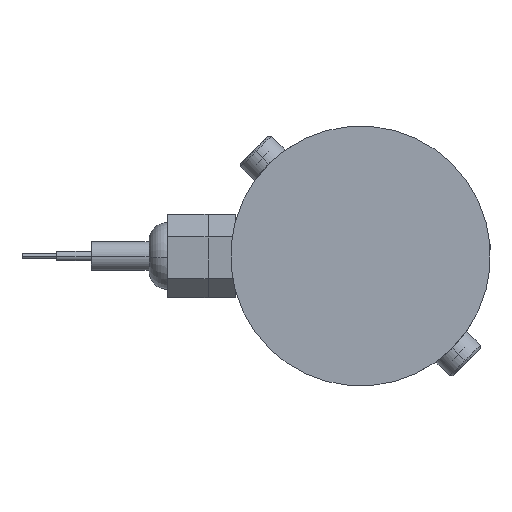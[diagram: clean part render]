
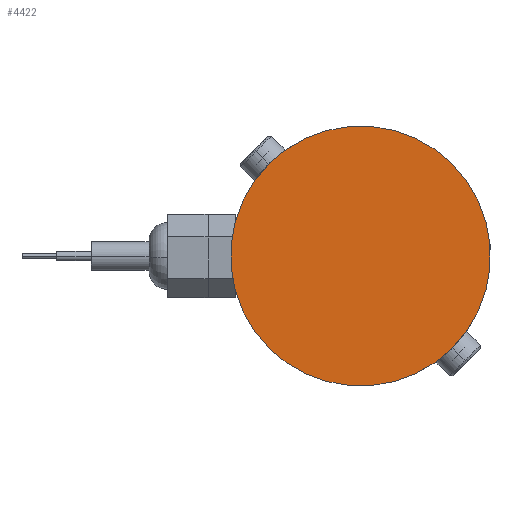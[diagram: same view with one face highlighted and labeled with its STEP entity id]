
A CAD part, left-side view. The second image highlights one B-rep face of the part: STEP entity #4422.
In plain terms, the highlighted planar face has unit normal (-1, 0, 0).
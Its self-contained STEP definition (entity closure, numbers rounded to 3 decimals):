
#353 = EDGE_CURVE ( 'NONE', #6805, #418, #6589, .T. ) ;
#418 = VERTEX_POINT ( 'NONE', #8571 ) ;
#832 = DIRECTION ( 'NONE',  ( 1., 0., 0. ) ) ;
#1250 = AXIS2_PLACEMENT_3D ( 'NONE', #7914, #832, #8026 ) ;
#1336 = EDGE_CURVE ( 'NONE', #418, #6805, #7661, .T. ) ;
#1355 = CARTESIAN_POINT ( 'NONE',  ( 0., 0., 0. ) ) ;
#2254 = ORIENTED_EDGE ( 'NONE', *, *, #1336, .F. ) ;
#2301 = CARTESIAN_POINT ( 'NONE',  ( 0., 0., 0. ) ) ;
#3001 = AXIS2_PLACEMENT_3D ( 'NONE', #2301, #5583, #6377 ) ;
#4422 = ADVANCED_FACE ( 'NONE', ( #8977 ), #5623, .F. ) ;
#5583 = DIRECTION ( 'NONE',  ( 1., 0., 0. ) ) ;
#5623 = PLANE ( 'NONE',  #1250 ) ;
#6307 = EDGE_LOOP ( 'NONE', ( #8010, #2254 ) ) ;
#6377 = DIRECTION ( 'NONE',  ( 0., -0.707, -0.707 ) ) ;
#6589 = CIRCLE ( 'NONE', #6980, 28.575 ) ;
#6697 = CARTESIAN_POINT ( 'NONE',  ( 0., 20.206, 20.206 ) ) ;
#6805 = VERTEX_POINT ( 'NONE', #6697 ) ;
#6944 = DIRECTION ( 'NONE',  ( 0., -0.707, -0.707 ) ) ;
#6980 = AXIS2_PLACEMENT_3D ( 'NONE', #1355, #8475, #6944 ) ;
#7661 = CIRCLE ( 'NONE', #3001, 28.575 ) ;
#7914 = CARTESIAN_POINT ( 'NONE',  ( 0., 0., 0. ) ) ;
#8010 = ORIENTED_EDGE ( 'NONE', *, *, #353, .F. ) ;
#8026 = DIRECTION ( 'NONE',  ( 0., -0.707, -0.707 ) ) ;
#8475 = DIRECTION ( 'NONE',  ( 1., 0., 0. ) ) ;
#8571 = CARTESIAN_POINT ( 'NONE',  ( 0., -20.206, -20.206 ) ) ;
#8977 = FACE_OUTER_BOUND ( 'NONE', #6307, .T. ) ;
